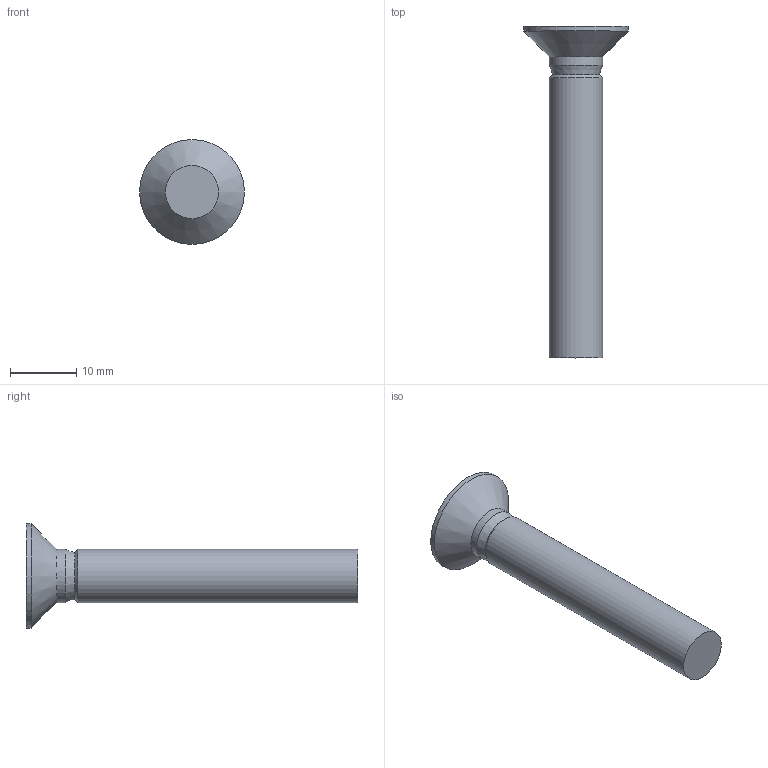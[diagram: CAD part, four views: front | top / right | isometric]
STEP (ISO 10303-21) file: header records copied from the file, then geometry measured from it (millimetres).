
FILE_DESCRIPTION(/* description */ (''),/* implementation_level */ '2;1');
FILE_NAME(/* name */ 'C:\Users\unitec\Documents\Inventor\HP\ボルト\JIS B 1111 十字穴付き皿小ねじ\IPT\CHWCSS-M8\CHWCSS-M8-50.stp',/* time_stamp */ '2016-12-24T16:30:20+09:00',/* author */ ('unitec'),/* organization */ (''),/* preprocessor_version */ 'ST-DEVELOPER v15.2',/* originating_system */ 'Autodesk Inventor 2014',/* authorisation */ '');
FILE_SCHEMA (('AUTOMOTIVE_DESIGN { 1 0 10303 214 3 1 1 }'));
Length unit declared in the file: millimetre
Products named in the file (1): CHWCSS-M8-50
Bounding box: 15.8 x 50 x 15.8 mm (x, y, z)
Volume: 2806 mm3; surface area: 1685.2 mm2
Topology: 1 solids, 1 shells, 33 faces, 77 edges, 43 vertices
Faces by surface type: plane 23, bspline 4, cylinder 3, cone 3
Full cylindrical faces by diameter (mm): 8 x2, 15.8 x1
Entity records: 1057 total; most frequent: CARTESIAN_POINT 400, ORIENTED_EDGE 134, DIRECTION 106, EDGE_CURVE 67, VERTEX_POINT 43, EDGE_LOOP 40, AXIS2_PLACEMENT_3D 37, ADVANCED_FACE 33
